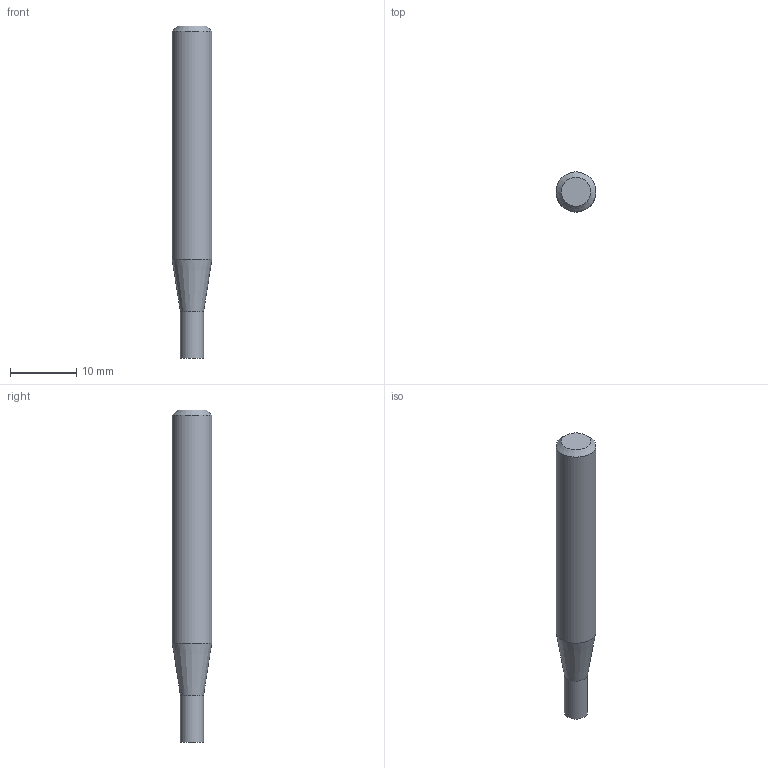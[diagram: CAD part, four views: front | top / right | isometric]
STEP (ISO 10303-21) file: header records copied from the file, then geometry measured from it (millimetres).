
FILE_DESCRIPTION((''),'2;1');
FILE_NAME('C:\Users\nsx150\AppData\Local\Temp\Mastercam 2021\QTW1OOEEGF\TEMP.step','2021-04-08T10:36:51',(''),(''),'STEP Write','Mastercam 2021 ... CNC Software, Inc.','');
FILE_SCHEMA(('AUTOMOTIVE_DESIGN'));
Length unit declared in the file: millimetre
Products named in the file (1): None
Bounding box: 6 x 6 x 50 mm (x, y, z)
Volume: 1197.6 mm3; surface area: 905.4 mm2
Topology: 2 solids, 2 shells, 8 faces, 10 edges, 6 vertices
Faces by surface type: plane 4, cylinder 2, cone 2
Full cylindrical faces by diameter (mm): 3.5 x1, 6 x1
Entity records: 190 total; most frequent: DIRECTION 32, CARTESIAN_POINT 22, AXIS2_PLACEMENT_3D 16, ORIENTED_EDGE 12, EDGE_LOOP 12, STYLED_ITEM 11, ADVANCED_FACE 8, VERTEX_POINT 6
